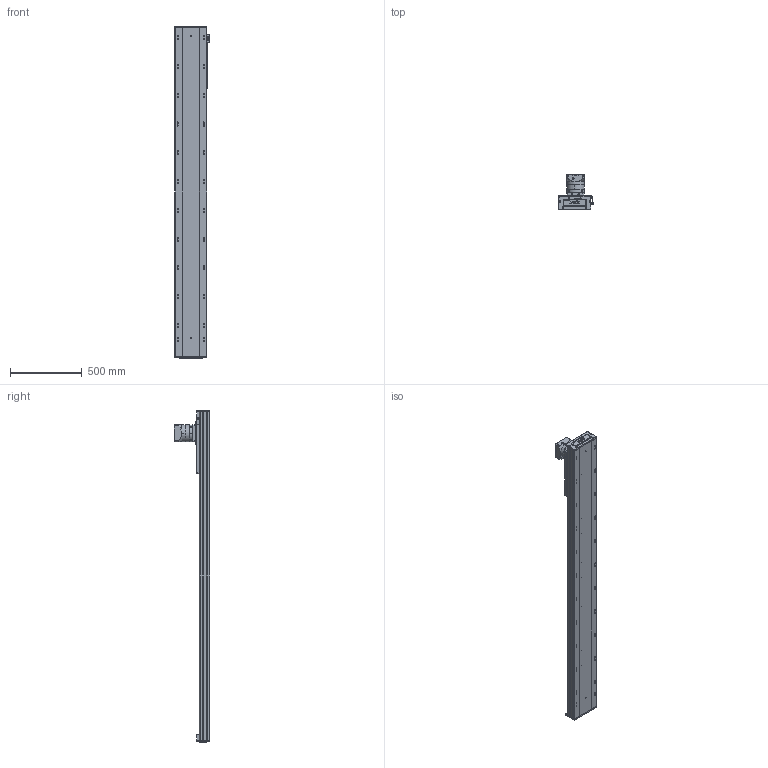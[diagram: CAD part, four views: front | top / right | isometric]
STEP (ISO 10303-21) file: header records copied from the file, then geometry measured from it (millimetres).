
FILE_DESCRIPTION (( 'STEP AP203' ), '1' );
FILE_NAME ('RY220-C-300-UK.SLDASM_1800.step', '2022-08-01T05:59:38', ( '' ), ( '' ), 'SwSTEP 2.0', 'SolidWorks 2016', '' );
FILE_SCHEMA (( 'CONFIG_CONTROL_DESIGN' ));
Length unit declared in the file: millimetre
Products named in the file (10): RY140直线电机感应器674光电安装座; 覜茼ん674; RY220喘沭賑輸; PF115L1-S2-22-58-110-145-M8; RY220喘沭綴裔啣; 滅袉蝶輸ㄗG412隅秶ㄘ; RY220-C-300-UK.SLDASM_1800; RY220喘沭俋离覜茼え; RY220菁釱MK-300_1800; RY220-齿条模组电机安装板
Assembly tree (12 placements, depth 2):
  RY220-C-300-UK.SLDASM_1800
    RY220菁釱MK-300_1800
    RY220喘沭賑輸
    RY220-齿条模组电机安装板
    PF115L1-S2-22-58-110-145-M8
    RY220喘沭綴裔啣  x2
    滅袉蝶輸ㄗG412隅秶ㄘ  x2
    RY140直线电机感应器674光电安装座
    覜茼ん674  x2
    RY220喘沭俋离覜茼え
Bounding box: 247 x 244.5 x 2309 mm (x, y, z)
Volume: 16698880 mm3; surface area: 3372132.8 mm2
Topology: 18 solids, 26 shells, 2158 faces, 5801 edges, 3657 vertices
Faces by surface type: cylinder 1019, plane 751, cone 226, bspline 162
Entity records: 68469 total; most frequent: CARTESIAN_POINT 18727, DIRECTION 10219, ORIENTED_EDGE 10050, EDGE_CURVE 5025, AXIS2_PLACEMENT_3D 3897, VERTEX_POINT 3283, EDGE_LOOP 2488, LINE 2425
